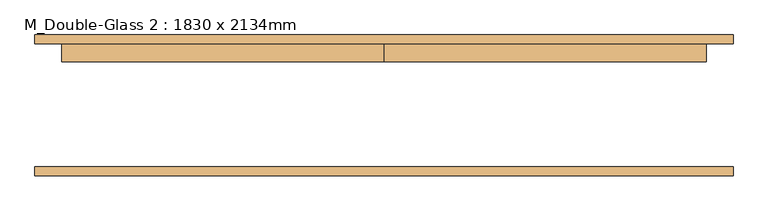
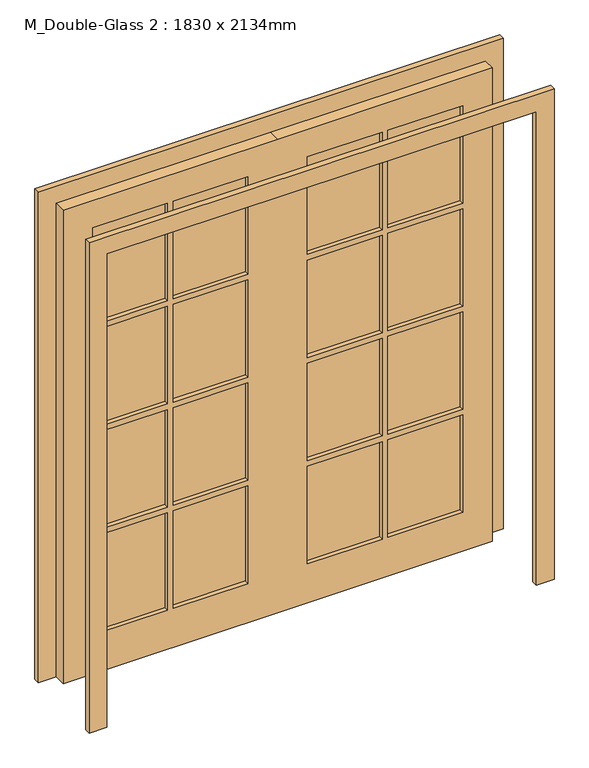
"""IFC4 building model written with IfcOpenShell, lengths in millimetres: door geometry, M_Double-Glass 2 : 1830 x 2134mm."""

from ifc_helpers import new_model, si_unit, frame, origin, place, context, project, spatial, polyline, outline, extrude, source, transform, mapped, element, save


def m_double_glass_2_1830_x_2134mm_ef281dce(model_context):
    return source(origin(), model_context, "Body", "SweptSolid", [
        extrude(outline(polyline([(470.0, 155.95), (788.0, 155.95), (788.0, 143.25), (470.0, 143.25), (470.0, 155.95)])), frame((0.0, 0.0, 1569.25), z_axis=(0.0, 0.0, 1.0), x_axis=(1.0, 0.0, 0.0)), (0.0, 0.0, 1.0), 439.75),
        extrude(outline(polyline([(127.0, 155.95), (445.0, 155.95), (445.0, 143.25), (127.0, 143.25), (127.0, 155.95)])), frame((0.0, 0.0, 1569.25), z_axis=(0.0, 0.0, 1.0), x_axis=(1.0, 0.0, 0.0)), (0.0, 0.0, 1.0), 439.75),
        extrude(outline(polyline([(-445.0, 155.95), (-127.0, 155.95), (-127.0, 143.25), (-445.0, 143.25), (-445.0, 155.95)])), frame((0.0, 0.0, 1569.25), z_axis=(0.0, 0.0, 1.0), x_axis=(1.0, 0.0, 0.0)), (0.0, 0.0, 1.0), 439.75),
        extrude(outline(polyline([(-788.0, 155.95), (-470.0, 155.95), (-470.0, 143.25), (-788.0, 143.25), (-788.0, 155.95)])), frame((0.0, 0.0, 1569.25), z_axis=(0.0, 0.0, 1.0), x_axis=(1.0, 0.0, 0.0)), (0.0, 0.0, 1.0), 439.75),
        extrude(outline(polyline([(-788.0, 155.95), (-470.0, 155.95), (-470.0, 143.25), (-788.0, 143.25), (-788.0, 155.95)])), frame((0.0, 0.0, 1104.5), z_axis=(0.0, 0.0, 1.0), x_axis=(1.0, 0.0, 0.0)), (0.0, 0.0, 1.0), 439.75),
        extrude(outline(polyline([(-445.0, 155.95), (-127.0, 155.95), (-127.0, 143.25), (-445.0, 143.25), (-445.0, 155.95)])), frame((0.0, 0.0, 1104.5), z_axis=(0.0, 0.0, 1.0), x_axis=(1.0, 0.0, 0.0)), (0.0, 0.0, 1.0), 439.75),
        extrude(outline(polyline([(127.0, 155.95), (445.0, 155.95), (445.0, 143.25), (127.0, 143.25), (127.0, 155.95)])), frame((0.0, 0.0, 1104.5), z_axis=(0.0, 0.0, 1.0), x_axis=(1.0, 0.0, 0.0)), (0.0, 0.0, 1.0), 439.75),
        extrude(outline(polyline([(470.0, 155.95), (788.0, 155.95), (788.0, 143.25), (470.0, 143.25), (470.0, 155.95)])), frame((0.0, 0.0, 1104.5), z_axis=(0.0, 0.0, 1.0), x_axis=(1.0, 0.0, 0.0)), (0.0, 0.0, 1.0), 439.75),
        extrude(outline(polyline([(470.0, 155.95), (788.0, 155.95), (788.0, 143.25), (470.0, 143.25), (470.0, 155.95)])), frame((0.0, 0.0, 639.75), z_axis=(0.0, 0.0, 1.0), x_axis=(1.0, 0.0, 0.0)), (0.0, 0.0, 1.0), 439.75),
        extrude(outline(polyline([(127.0, 155.95), (445.0, 155.95), (445.0, 143.25), (127.0, 143.25), (127.0, 155.95)])), frame((0.0, 0.0, 639.75), z_axis=(0.0, 0.0, 1.0), x_axis=(1.0, 0.0, 0.0)), (0.0, 0.0, 1.0), 439.75),
        extrude(outline(polyline([(-445.0, 155.95), (-127.0, 155.95), (-127.0, 143.25), (-445.0, 143.25), (-445.0, 155.95)])), frame((0.0, 0.0, 639.75), z_axis=(0.0, 0.0, 1.0), x_axis=(1.0, 0.0, 0.0)), (0.0, 0.0, 1.0), 439.75),
        extrude(outline(polyline([(-788.0, 155.95), (-470.0, 155.95), (-470.0, 143.25), (-788.0, 143.25), (-788.0, 155.95)])), frame((0.0, 0.0, 639.75), z_axis=(0.0, 0.0, 1.0), x_axis=(1.0, 0.0, 0.0)), (0.0, 0.0, 1.0), 439.75),
        extrude(outline(polyline([(470.0, 155.95), (788.0, 155.95), (788.0, 143.25), (470.0, 143.25), (470.0, 155.95)])), frame((0.0, 0.0, 175.0), z_axis=(0.0, 0.0, 1.0), x_axis=(1.0, 0.0, 0.0)), (0.0, 0.0, 1.0), 439.75),
        extrude(outline(polyline([(127.0, 155.95), (445.0, 155.95), (445.0, 143.25), (127.0, 143.25), (127.0, 155.95)])), frame((0.0, 0.0, 175.0), z_axis=(0.0, 0.0, 1.0), x_axis=(1.0, 0.0, 0.0)), (0.0, 0.0, 1.0), 439.75),
        extrude(outline(polyline([(-445.0, 155.95), (-127.0, 155.95), (-127.0, 143.25), (-445.0, 143.25), (-445.0, 155.95)])), frame((0.0, 0.0, 175.0), z_axis=(0.0, 0.0, 1.0), x_axis=(1.0, 0.0, 0.0)), (0.0, 0.0, 1.0), 439.75),
        extrude(outline(polyline([(-788.0, 155.95), (-470.0, 155.95), (-470.0, 143.25), (-788.0, 143.25), (-788.0, 155.95)])), frame((0.0, 0.0, 175.0), z_axis=(0.0, 0.0, 1.0), x_axis=(1.0, 0.0, 0.0)), (0.0, 0.0, 1.0), 439.75),
        extrude(outline(polyline([(2134.0, 0.0), (2134.0, -915.0), (0.0, -915.0), (0.0, 0.0), (0.0, 915.0), (2134.0, 915.0), (2134.0, 0.0)]), holes=[polyline([(2009.0, 470.0), (2009.0, 788.0), (1569.25, 788.0), (1569.25, 470.0), (2009.0, 470.0)]), polyline([(2009.0, 127.0), (2009.0, 445.0), (1569.25, 445.0), (1569.25, 127.0), (2009.0, 127.0)]), polyline([(1544.25, 470.0), (1544.25, 788.0), (1104.5, 788.0), (1104.5, 470.0), (1544.25, 470.0)]), polyline([(1544.25, 127.0), (1544.25, 445.0), (1104.5, 445.0), (1104.5, 127.0), (1544.25, 127.0)]), polyline([(1079.5, 470.0), (1079.5, 788.0), (639.75, 788.0), (639.75, 470.0), (1079.5, 470.0)]), polyline([(1079.5, 127.0), (1079.5, 445.0), (639.75, 445.0), (639.75, 127.0), (1079.5, 127.0)]), polyline([(614.75, 470.0), (614.75, 788.0), (175.0, 788.0), (175.0, 470.0), (614.75, 470.0)]), polyline([(614.75, 127.0), (614.75, 445.0), (175.0, 445.0), (175.0, 127.0), (614.75, 127.0)]), polyline([(2009.0, -445.0), (2009.0, -127.0), (1569.25, -127.0), (1569.25, -445.0), (2009.0, -445.0)]), polyline([(1544.25, -445.0), (1544.25, -127.0), (1104.5, -127.0), (1104.5, -445.0), (1544.25, -445.0)]), polyline([(1544.25, -470.0), (1104.5, -470.0), (1104.5, -788.0), (1544.25, -788.0), (1544.25, -470.0)]), polyline([(1079.5, -445.0), (1079.5, -127.0), (639.75, -127.0), (639.75, -445.0), (1079.5, -445.0)]), polyline([(1079.5, -470.0), (639.75, -470.0), (639.75, -788.0), (1079.5, -788.0), (1079.5, -470.0)]), polyline([(614.75, -445.0), (614.75, -127.0), (175.0, -127.0), (175.0, -445.0), (614.75, -445.0)]), polyline([(614.75, -788.0), (614.75, -470.0), (175.0, -470.0), (175.0, -788.0), (614.75, -788.0)]), polyline([(1569.25, -470.0), (1569.25, -788.0), (2009.0, -788.0), (2009.0, -470.0), (1569.25, -470.0)])]), frame((0.0, 124.0, 0.0), z_axis=(0.0, 1.0, 0.0), x_axis=(0.0, 0.0, 1.0)), (0.0, 0.0, 1.0), 51.0),
        extrude(outline(polyline([(2134.0, -915.0), (2134.0, 915.0), (0.0, 915.0), (0.0, 991.2), (2210.2, 991.2), (2210.2, -991.2), (0.0, -991.2), (0.0, -915.0), (2134.0, -915.0)])), frame((0.0, -200.0, 0.0), z_axis=(0.0, 1.0, 0.0), x_axis=(0.0, 0.0, 1.0)), (0.0, 0.0, 1.0), 25.0),
        extrude(outline(polyline([(2134.0, -915.0), (2134.0, 915.0), (0.0, 915.0), (0.0, 991.2), (2210.2, 991.2), (2210.2, -991.2), (0.0, -991.2), (0.0, -915.0), (2134.0, -915.0)])), frame((0.0, 175.0, 0.0), z_axis=(0.0, 1.0, 0.0), x_axis=(0.0, 0.0, 1.0)), (0.0, 0.0, 1.0), 25.0),
    ])


if __name__ == "__main__":
    model = new_model("IFC4")
    model_context = context("Model", 3, world=origin())
    ifc_project = project(units=[si_unit("LENGTHUNIT", "METRE", prefix="MILLI")], contexts=[model_context])
    site = spatial("IfcSite", under=ifc_project)
    building = spatial("IfcBuilding", under=site)
    placement = place(None, origin())
    m_double_glass_2_1830_x_2134mm_shape = m_double_glass_2_1830_x_2134mm_ef281dce(model_context)
    element("IfcDoor", 1, ObjectType="M_Double-Glass 2 : 1830 x 2134mm", at=placement, inside=building, context=model_context, shape_type="MappedRepresentation", body=[
        mapped(m_double_glass_2_1830_x_2134mm_shape, transform((0.0, 0.0, 0.0), x_axis=(1.0, 0.0, 0.0), y_axis=(0.0, 1.0, 0.0), z_axis=(0.0, 0.0, 1.0))),
    ])
    save(model, "model.ifc")
